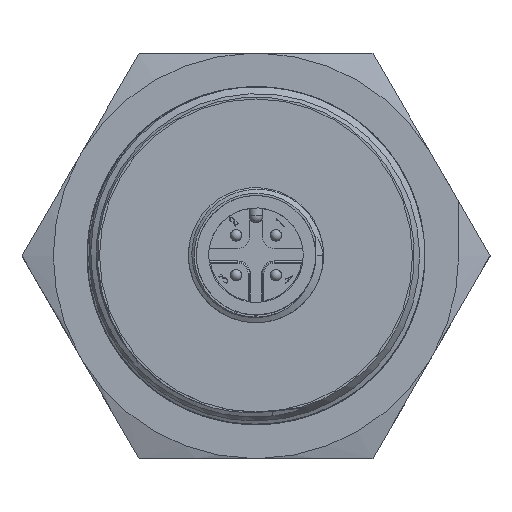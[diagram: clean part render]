
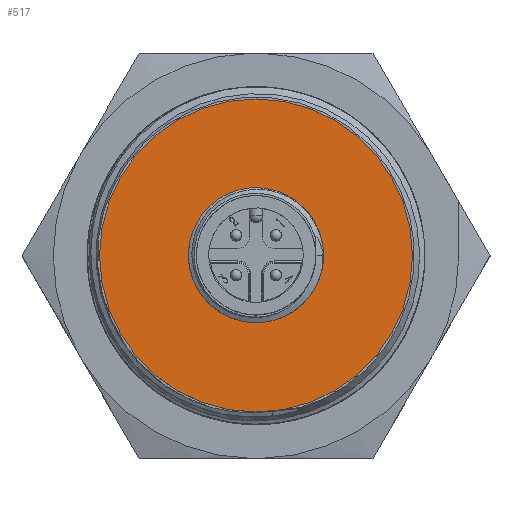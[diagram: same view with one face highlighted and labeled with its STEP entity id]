
A CAD part, top view. The second image highlights one B-rep face of the part: STEP entity #517.
In plain terms, the highlighted planar face has unit normal (0, 0, 1).
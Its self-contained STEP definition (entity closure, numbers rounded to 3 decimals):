
#193=PLANE('',#4562);
#517=ADVANCED_FACE('NONE',(#820,#821),#193,.F.);
#820=FACE_BOUND('',#928,.T.);
#821=FACE_BOUND('',#929,.T.);
#928=EDGE_LOOP('',(#2057));
#929=EDGE_LOOP('',(#2058));
#1856=CIRCLE('',#4560,5.3);
#1857=CIRCLE('',#4561,13.9);
#2057=ORIENTED_EDGE('',*,*,#3777,.F.);
#2058=ORIENTED_EDGE('',*,*,#3778,.T.);
#3318=VERTEX_POINT('',#7325);
#3319=VERTEX_POINT('',#7327);
#3777=EDGE_CURVE('NONE',#3318,#3318,#1856,.T.);
#3778=EDGE_CURVE('NONE',#3319,#3319,#1857,.T.);
#4560=AXIS2_PLACEMENT_3D('',#7324,#4929,#4930);
#4561=AXIS2_PLACEMENT_3D('',#7326,#4931,#4932);
#4562=AXIS2_PLACEMENT_3D('',#7328,#4933,#4934);
#4929=DIRECTION('',(0.,0.,1.));
#4930=DIRECTION('',(1.,0.,0.));
#4931=DIRECTION('',(0.,0.,1.));
#4932=DIRECTION('',(1.,0.,0.));
#4933=DIRECTION('',(0.,0.,-1.));
#4934=DIRECTION('',(-1.,0.,0.));
#7324=CARTESIAN_POINT('',(7.673,-2.636,23.908));
#7325=CARTESIAN_POINT('',(12.973,-2.636,23.908));
#7326=CARTESIAN_POINT('',(7.673,-2.636,23.908));
#7327=CARTESIAN_POINT('',(21.573,-2.636,23.908));
#7328=CARTESIAN_POINT('',(7.673,-2.636,23.908));
